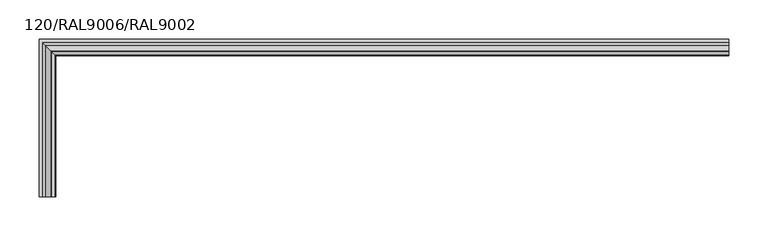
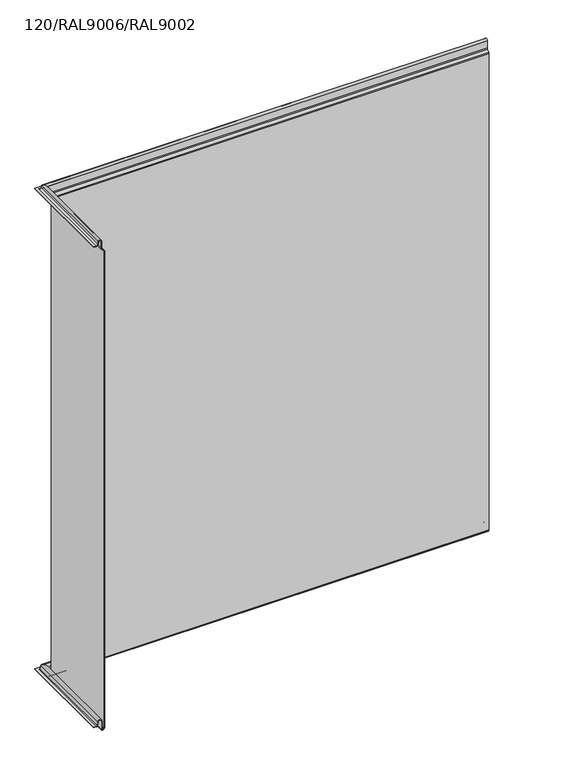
"""IFC4 building model written with IfcOpenShell, lengths in millimetres: plate geometry, TR_C_H_FHL_Corner_Tr_B : 120/RAL9006/RAL9002."""

from ifc_helpers import new_model, si_unit, frame, origin, place, context, project, spatial, polyline, circle_curve, ellipse_curve, source, transform, mapped, element, save
from ifc_brep_helpers import plane_surface, cylinder_surface, revolved_surface, advanced_brep


def plate_120_ral9006_ral9002_22d1957b(model_context):
    return source(origin(), model_context, "Body", "AdvancedBrep", [
        advanced_brep(
        [(490.0, -120.0, 989.8218254), (490.0, -120.0, 0.4813708), (490.0, -119.1945436, -1.4631728), (490.0, -117.3288582, -3.3288582), (490.0, -114.0, -1.95), (490.0, -114.0, 15.65), (490.0, -107.1524133, 16.2490862), (490.0, -105.8160279, 8.6700685), (490.0, -103.9448932, 7.1), (490.0, -99.0, 7.1), (490.0, -99.0, 7.9), (490.0, -103.9448932, 7.9), (490.0, -105.0281817, 8.808987), (490.0, -106.364567, 16.3880048), (490.0, -114.8, 15.65), (490.0, -114.8, -1.95), (490.0, -116.7631728, -2.7631728), (490.0, -118.6288582, -0.8974874), (490.0, -119.2, 0.4813708), (490.0, -119.2, 989.8218254), (490.0, -118.5556349, 991.3774603), (490.0, -114.1665476, 995.7665476), (490.0, -113.2, 998.1), (490.0, -113.2, 1012.85), (490.0, -108.337221, 1013.275438), (490.0, -107.5939081, 1009.0599008), (490.0, -103.1130328, 1005.3), (490.0, -99.0, 1005.3), (490.0, -99.0, 1006.1), (490.0, -103.1130328, 1006.1), (490.0, -106.8060618, 1009.1988193), (490.0, -107.5493748, 1013.4143566), (490.0, -114.0, 1012.85), (490.0, -114.0, 998.1), (490.0, -114.732233, 996.332233), (490.0, -119.1213203, 991.9431458), (-370.0, -120.0, 989.8218254), (-370.0, -120.0, 0.4813708), (-370.8, -119.2, 0.4813708), (-370.8, -119.2, 989.8218254), (-370.0, -300.0, 989.8218254), (-370.8786797, -300.0, 991.9431458), (-375.267767, -300.0, 996.332233), (-376.0, -300.0, 998.1), (-376.0, -300.0, 1012.85), (-382.4506252, -300.0, 1013.4143566), (-383.1939382, -300.0, 1009.1988193), (-386.8869672, -300.0, 1006.1), (-391.0, -300.0, 1006.1), (-391.0, -300.0, 1005.3), (-386.8869672, -300.0, 1005.3), (-382.4060919, -300.0, 1009.0599008), (-381.662779, -300.0, 1013.275438), (-376.8, -300.0, 1012.85), (-376.8, -300.0, 998.1), (-375.8334524, -300.0, 995.7665476), (-371.4443651, -300.0, 991.3774603), (-370.8, -300.0, 989.8218254), (-370.8, -300.0, 0.4813708), (-371.3711418, -300.0, -0.8974874), (-373.2368272, -300.0, -2.7631728), (-375.2, -300.0, -1.95), (-375.2, -300.0, 15.65), (-383.635433, -300.0, 16.3880048), (-384.9718183, -300.0, 8.808987), (-386.0551068, -300.0, 7.9), (-391.0, -300.0, 7.9), (-391.0, -300.0, 7.1), (-386.0551068, -300.0, 7.1), (-384.1839721, -300.0, 8.6700685), (-382.8475867, -300.0, 16.2490862), (-376.0, -300.0, 15.65), (-376.0, -300.0, -1.95), (-372.6711418, -300.0, -3.3288582), (-370.8054564, -300.0, -1.4631728), (-370.0, -300.0, 0.4813708), (-370.8054564, -119.1945436, -1.4631728), (-372.6711418, -117.3288582, -3.3288582), (-376.0, -114.0, -1.95), (-376.0, -114.0, 15.65), (-382.8475867, -107.1524133, 16.2490862), (-384.1839721, -105.8160279, 8.6700685), (-386.0551068, -103.9448932, 7.1), (-391.0, -99.0, 7.1), (-391.0, -99.0, 7.9), (-386.0551068, -103.9448932, 7.9), (-384.9718183, -105.0281817, 8.808987), (-383.635433, -106.364567, 16.3880048), (-375.2, -114.8, 15.65), (-375.2, -114.8, -1.95), (-373.2368272, -116.7631728, -2.7631728), (-371.3711418, -118.6288582, -0.8974874), (-371.4443651, -118.5556349, 991.3774603), (-375.8334524, -114.1665476, 995.7665476), (-376.8, -113.2, 998.1), (-376.8, -113.2, 1012.85), (-381.662779, -108.337221, 1013.275438), (-382.4060919, -107.5939081, 1009.0599008), (-386.8869672, -103.1130328, 1005.3), (-391.0, -99.0, 1005.3), (-391.0, -99.0, 1006.1), (-386.8869672, -103.1130328, 1006.1), (-383.1939382, -106.8060618, 1009.1988193), (-382.4506252, -107.5493748, 1013.4143566), (-376.0, -114.0, 1012.85), (-376.0, -114.0, 998.1), (-375.267767, -114.732233, 996.332233), (-370.8786797, -119.1213203, 991.9431458)],
        [
            (0, 1),
            (1, 2, circle_curve(frame((490.0, -117.25, 0.4813708), z_axis=(1.0, 0.0, 0.0), x_axis=(0.0, -1.0, 0.0)), 2.75)),
            (2, 3),
            (3, 4, circle_curve(frame((490.0, -115.95, -1.95), z_axis=(1.0, 0.0, 0.0), x_axis=(0.0, -1.0, 0.0)), 1.95)),
            (4, 5),
            (5, 6, circle_curve(frame((490.0, -110.55, 15.65), z_axis=(-1.0, 0.0, 0.0), x_axis=(0.0, -1.0, 0.0)), 3.45)),
            (6, 7),
            (7, 8, circle_curve(frame((490.0, -103.9448932, 9.0), z_axis=(1.0, 0.0, 0.0), x_axis=(0.0, -1.0, 0.0)), 1.9)),
            (8, 9),
            (9, 10),
            (10, 11),
            (11, 12, circle_curve(frame((490.0, -103.9448932, 9.0), z_axis=(-1.0, 0.0, 0.0), x_axis=(0.0, -1.0, 0.0)), 1.1)),
            (12, 13),
            (13, 14, circle_curve(frame((490.0, -110.55, 15.65), z_axis=(1.0, 0.0, 0.0), x_axis=(0.0, -1.0, 0.0)), 4.25)),
            (14, 15),
            (15, 16, circle_curve(frame((490.0, -115.95, -1.95), z_axis=(-1.0, 0.0, 0.0), x_axis=(0.0, -1.0, 0.0)), 1.15)),
            (16, 17),
            (17, 18, circle_curve(frame((490.0, -117.25, 0.4813708), z_axis=(-1.0, 0.0, 0.0), x_axis=(0.0, -1.0, 0.0)), 1.95)),
            (18, 19),
            (19, 20, circle_curve(frame((490.0, -117.0, 989.8218254), z_axis=(-1.0, 0.0, 0.0), x_axis=(0.0, -1.0, 0.0)), 2.2)),
            (20, 21),
            (21, 22, circle_curve(frame((490.0, -116.5, 998.1), z_axis=(1.0, 0.0, 0.0), x_axis=(0.0, -1.0, 0.0)), 3.3)),
            (22, 23),
            (23, 24, circle_curve(frame((490.0, -110.75, 1012.85), z_axis=(-1.0, 0.0, 0.0), x_axis=(0.0, -1.0, 0.0)), 2.45)),
            (24, 25),
            (25, 26, circle_curve(frame((490.0, -103.1130328, 1009.85), z_axis=(1.0, 0.0, 0.0), x_axis=(0.0, -1.0, 0.0)), 4.55)),
            (26, 27),
            (27, 28),
            (28, 29),
            (29, 30, circle_curve(frame((490.0, -103.1130328, 1009.85), z_axis=(-1.0, 0.0, 0.0), x_axis=(0.0, -1.0, 0.0)), 3.75)),
            (30, 31),
            (31, 32, circle_curve(frame((490.0, -110.75, 1012.85), z_axis=(1.0, 0.0, 0.0), x_axis=(0.0, -1.0, 0.0)), 3.25)),
            (32, 33),
            (33, 34, circle_curve(frame((490.0, -116.5, 998.1), z_axis=(-1.0, 0.0, 0.0), x_axis=(0.0, -1.0, 0.0)), 2.5)),
            (34, 35),
            (35, 0, circle_curve(frame((490.0, -117.0, 989.8218254), z_axis=(1.0, 0.0, 0.0), x_axis=(0.0, -1.0, 0.0)), 3.0)),
            (0, 36),
            (36, 37),
            (37, 1),
            (18, 38),
            (38, 39),
            (39, 19),
            (40, 41, circle_curve(frame((-373.0, -300.0, 989.8218254), z_axis=(0.0, -1.0, 0.0), x_axis=(1.0, 0.0, 0.0)), 3.0)),
            (41, 42),
            (42, 43, circle_curve(frame((-373.5, -300.0, 998.1), z_axis=(0.0, 1.0, 0.0), x_axis=(1.0, 0.0, 0.0)), 2.5)),
            (43, 44),
            (44, 45, circle_curve(frame((-379.25, -300.0, 1012.85), z_axis=(0.0, -1.0, 0.0), x_axis=(1.0, 0.0, 0.0)), 3.25)),
            (45, 46),
            (46, 47, circle_curve(frame((-386.8869672, -300.0, 1009.85), z_axis=(0.0, 1.0, 0.0), x_axis=(1.0, 0.0, 0.0)), 3.75)),
            (47, 48),
            (48, 49),
            (49, 50),
            (50, 51, circle_curve(frame((-386.8869672, -300.0, 1009.85), z_axis=(0.0, -1.0, 0.0), x_axis=(1.0, 0.0, 0.0)), 4.55)),
            (51, 52),
            (52, 53, circle_curve(frame((-379.25, -300.0, 1012.85), z_axis=(0.0, 1.0, 0.0), x_axis=(1.0, 0.0, 0.0)), 2.45)),
            (53, 54),
            (54, 55, circle_curve(frame((-373.5, -300.0, 998.1), z_axis=(0.0, -1.0, 0.0), x_axis=(1.0, 0.0, 0.0)), 3.3)),
            (55, 56),
            (56, 57, circle_curve(frame((-373.0, -300.0, 989.8218254), z_axis=(0.0, 1.0, 0.0), x_axis=(1.0, 0.0, 0.0)), 2.2)),
            (57, 58),
            (58, 59, circle_curve(frame((-372.75, -300.0, 0.4813708), z_axis=(0.0, 1.0, 0.0), x_axis=(1.0, 0.0, 0.0)), 1.95)),
            (59, 60),
            (60, 61, circle_curve(frame((-374.05, -300.0, -1.95), z_axis=(0.0, 1.0, 0.0), x_axis=(1.0, 0.0, 0.0)), 1.15)),
            (61, 62),
            (62, 63, circle_curve(frame((-379.45, -300.0, 15.65), z_axis=(0.0, -1.0, 0.0), x_axis=(1.0, 0.0, 0.0)), 4.25)),
            (63, 64),
            (64, 65, circle_curve(frame((-386.0551068, -300.0, 9.0), z_axis=(0.0, 1.0, 0.0), x_axis=(1.0, 0.0, 0.0)), 1.1)),
            (65, 66),
            (66, 67),
            (67, 68),
            (68, 69, circle_curve(frame((-386.0551068, -300.0, 9.0), z_axis=(0.0, -1.0, 0.0), x_axis=(1.0, 0.0, 0.0)), 1.9)),
            (69, 70),
            (70, 71, circle_curve(frame((-379.45, -300.0, 15.65), z_axis=(0.0, 1.0, 0.0), x_axis=(1.0, 0.0, 0.0)), 3.45)),
            (71, 72),
            (72, 73, circle_curve(frame((-374.05, -300.0, -1.95), z_axis=(0.0, -1.0, 0.0), x_axis=(1.0, 0.0, 0.0)), 1.95)),
            (73, 74),
            (74, 75, circle_curve(frame((-372.75, -300.0, 0.4813708), z_axis=(0.0, -1.0, 0.0), x_axis=(1.0, 0.0, 0.0)), 2.75)),
            (75, 40),
            (36, 40),
            (75, 37),
            (38, 58),
            (57, 39),
            (37, 76, ellipse_curve(frame((-372.75, -117.25, 0.4813708), z_axis=(0.7071067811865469, 0.7071067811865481, 0.0), x_axis=(0.7071067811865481, -0.7071067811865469, 0.0)), 3.8890873, 2.75)),
            (76, 2),
            (76, 77),
            (77, 3),
            (77, 78, ellipse_curve(frame((-374.05, -115.95, -1.95), z_axis=(0.7071067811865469, 0.7071067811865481, 0.0), x_axis=(0.7071067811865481, -0.7071067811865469, 0.0)), 2.7577164, 1.95)),
            (78, 4),
            (78, 79),
            (79, 5),
            (79, 80, ellipse_curve(frame((-379.45, -110.55, 15.65), z_axis=(-0.7071067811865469, -0.7071067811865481, 0.0), x_axis=(-0.7071067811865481, 0.7071067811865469, 0.0)), 4.8790368, 3.45)),
            (80, 6),
            (80, 81),
            (81, 7),
            (81, 82, ellipse_curve(frame((-386.0551068, -103.9448932, 9.0), z_axis=(0.7071067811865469, 0.7071067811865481, 0.0), x_axis=(0.7071067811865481, -0.7071067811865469, 0.0)), 2.6870058, 1.9)),
            (82, 8),
            (82, 68),
            (67, 83),
            (83, 9),
            (83, 84),
            (84, 10),
            (84, 66),
            (65, 85),
            (85, 11),
            (85, 86, ellipse_curve(frame((-386.0551068, -103.9448932, 9.0), z_axis=(-0.7071067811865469, -0.7071067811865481, 0.0), x_axis=(-0.7071067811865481, 0.7071067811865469, 0.0)), 1.5556349, 1.1)),
            (86, 12),
            (86, 87),
            (87, 13),
            (87, 88, ellipse_curve(frame((-379.45, -110.55, 15.65), z_axis=(0.7071067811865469, 0.7071067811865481, 0.0), x_axis=(0.7071067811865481, -0.7071067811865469, 0.0)), 6.0104076, 4.25)),
            (88, 14),
            (88, 89),
            (89, 15),
            (89, 90, ellipse_curve(frame((-374.05, -115.95, -1.95), z_axis=(-0.7071067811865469, -0.7071067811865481, 0.0), x_axis=(-0.7071067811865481, 0.7071067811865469, 0.0)), 1.6263456, 1.15)),
            (90, 16),
            (90, 91),
            (91, 17),
            (91, 38, ellipse_curve(frame((-372.75, -117.25, 0.4813708), z_axis=(-0.7071067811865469, -0.7071067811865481, 0.0), x_axis=(-0.7071067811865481, 0.7071067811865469, 0.0)), 2.7577164, 1.95)),
            (39, 92, ellipse_curve(frame((-373.0, -117.0, 989.8218254), z_axis=(-0.7071067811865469, -0.7071067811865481, 0.0), x_axis=(-0.7071067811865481, 0.7071067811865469, 0.0)), 3.1112698, 2.2)),
            (92, 20),
            (92, 93),
            (93, 21),
            (93, 94, ellipse_curve(frame((-373.5, -116.5, 998.1), z_axis=(0.7071067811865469, 0.7071067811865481, 0.0), x_axis=(0.7071067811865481, -0.7071067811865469, 0.0)), 4.6669048, 3.3)),
            (94, 22),
            (94, 95),
            (95, 23),
            (95, 96, ellipse_curve(frame((-379.25, -110.75, 1012.85), z_axis=(-0.7071067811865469, -0.7071067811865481, 0.0), x_axis=(-0.7071067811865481, 0.7071067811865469, 0.0)), 3.4648232, 2.45)),
            (96, 24),
            (96, 97),
            (97, 25),
            (97, 98, ellipse_curve(frame((-386.8869672, -103.1130328, 1009.85), z_axis=(0.7071067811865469, 0.7071067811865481, 0.0), x_axis=(0.7071067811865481, -0.7071067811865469, 0.0)), 6.4346717, 4.55)),
            (98, 26),
            (98, 50),
            (49, 99),
            (99, 27),
            (99, 100),
            (100, 28),
            (100, 48),
            (47, 101),
            (101, 29),
            (101, 102, ellipse_curve(frame((-386.8869672, -103.1130328, 1009.85), z_axis=(-0.7071067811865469, -0.7071067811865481, 0.0), x_axis=(-0.7071067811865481, 0.7071067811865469, 0.0)), 5.3033009, 3.75)),
            (102, 30),
            (102, 103),
            (103, 31),
            (103, 104, ellipse_curve(frame((-379.25, -110.75, 1012.85), z_axis=(0.7071067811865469, 0.7071067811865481, 0.0), x_axis=(0.7071067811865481, -0.7071067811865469, 0.0)), 4.5961941, 3.25)),
            (104, 32),
            (104, 105),
            (105, 33),
            (105, 106, ellipse_curve(frame((-373.5, -116.5, 998.1), z_axis=(-0.7071067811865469, -0.7071067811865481, 0.0), x_axis=(-0.7071067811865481, 0.7071067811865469, 0.0)), 3.5355339, 2.5)),
            (106, 34),
            (106, 107),
            (107, 35),
            (107, 36, ellipse_curve(frame((-373.0, -117.0, 989.8218254), z_axis=(0.7071067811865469, 0.7071067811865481, 0.0), x_axis=(0.7071067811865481, -0.7071067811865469, 0.0)), 4.2426407, 3.0)),
            (74, 76),
            (73, 77),
            (72, 78),
            (71, 79),
            (70, 80),
            (69, 81),
            (64, 86),
            (63, 87),
            (62, 88),
            (61, 89),
            (60, 90),
            (59, 91),
            (56, 92),
            (55, 93),
            (54, 94),
            (53, 95),
            (52, 96),
            (51, 97),
            (46, 102),
            (45, 103),
            (44, 104),
            (43, 105),
            (42, 106),
            (41, 107),
        ],
        [
            plane_surface(frame((490.0, 0.0, 0.0), z_axis=(1.0, 0.0, 0.0), x_axis=(0.0, 0.0, 1.0))),
            plane_surface(frame((490.0, -120.0, 989.8218254), z_axis=(0.0, -1.0, 0.0), x_axis=(-1.0, 0.0, 0.0))),
            plane_surface(frame((490.0, -119.2, 0.4813708), z_axis=(0.0, 1.0, 0.0), x_axis=(-1.0, 0.0, 0.0))),
            plane_surface(frame((-490.0, -300.0, 0.0), z_axis=(0.0, -1.0, 0.0), x_axis=(0.0, 0.0, 1.0))),
            plane_surface(frame((-370.0, -120.0, 989.8218254), z_axis=(1.0, 0.0, 0.0), x_axis=(0.0, -1.0, 0.0))),
            plane_surface(frame((-370.8, -119.2, 0.4813708), z_axis=(-1.0, 0.0, 0.0), x_axis=(0.0, -1.0, 0.0))),
            cylinder_surface(frame((490.0, -117.25, 0.4813708), z_axis=(1.0, 0.0, 0.0), x_axis=(0.0, -1.0, 0.0)), 2.75),
            plane_surface(frame((490.0, -119.1945436, -1.4631728), z_axis=(0.0, -0.7071067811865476, -0.7071067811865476), x_axis=(-1.0, 0.0, 0.0))),
            cylinder_surface(frame((490.0, -115.95, -1.95), z_axis=(1.0, 0.0, 0.0), x_axis=(0.0, -1.0, 0.0)), 1.95),
            plane_surface(frame((490.0, -114.0, -1.95), z_axis=(0.0, 1.0, 0.0), x_axis=(-1.0, 0.0, 0.0))),
            revolved_surface(polyline([(-382.90000000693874, -114.0, 15.65), (490.0, -114.0, 15.65)]), (490.0, -110.55, 15.65), (-1.0, 0.0, 0.0)),
            plane_surface(frame((490.0, -107.1524133, 16.2490862), z_axis=(0.0, -0.9848077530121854, -0.17364817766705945), x_axis=(-1.0, 0.0, 0.0))),
            cylinder_surface(frame((490.0, -103.9448932, 9.0), z_axis=(1.0, 0.0, 0.0), x_axis=(0.0, -1.0, 0.0)), 1.9),
            plane_surface(frame((490.0, -103.9448932, 7.1), z_axis=(0.0, 0.0, -1.0), x_axis=(-1.0, 0.0, 0.0))),
            plane_surface(frame((490.0, -99.0, 7.1), z_axis=(0.0, 1.0, 0.0), x_axis=(-1.0, 0.0, 0.0))),
            plane_surface(frame((490.0, -99.0, 7.9), z_axis=(0.0, 0.0, 1.0), x_axis=(-1.0, 0.0, 0.0))),
            revolved_surface(polyline([(-387.1551067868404, -105.04489319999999, 9.0), (490.0, -105.04489319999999, 9.0)]), (490.0, -103.9448932, 9.0), (-1.0, 0.0, 0.0)),
            plane_surface(frame((490.0, -105.0281817, 8.808987), z_axis=(0.0, 0.9848077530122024, 0.17364817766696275), x_axis=(-1.0, 0.0, 0.0))),
            cylinder_surface(frame((490.0, -110.55, 15.65), z_axis=(1.0, 0.0, 0.0), x_axis=(0.0, -1.0, 0.0)), 4.25),
            plane_surface(frame((490.0, -114.8, 15.65), z_axis=(0.0, -1.0, 0.0), x_axis=(-1.0, 0.0, 0.0))),
            revolved_surface(polyline([(-375.2000000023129, -117.10000000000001, -1.95), (490.0, -117.10000000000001, -1.95)]), (490.0, -115.95, -1.95), (-1.0, 0.0, 0.0)),
            plane_surface(frame((490.0, -116.7631728, -2.7631728), z_axis=(0.0, 0.7071067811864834, 0.7071067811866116), x_axis=(-1.0, 0.0, 0.0))),
            revolved_surface(polyline([(-374.6999999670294, -119.2, 0.4813708), (490.0, -119.2, 0.4813708)]), (490.0, -117.25, 0.4813708), (-1.0, 0.0, 0.0)),
            revolved_surface(polyline([(-375.19999997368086, -119.2, 989.8218254), (490.0, -119.2, 989.8218254)]), (490.0, -117.0, 989.8218254), (-1.0, 0.0, 0.0)),
            plane_surface(frame((490.0, -118.5556349, 991.3774603), z_axis=(0.0, 0.7071067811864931, -0.7071067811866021), x_axis=(-1.0, 0.0, 0.0))),
            cylinder_surface(frame((490.0, -116.5, 998.1), z_axis=(1.0, 0.0, 0.0), x_axis=(0.0, -1.0, 0.0)), 3.3),
            plane_surface(frame((490.0, -113.2, 998.1), z_axis=(0.0, 1.0, 0.0), x_axis=(-1.0, 0.0, 0.0))),
            revolved_surface(polyline([(-381.69999998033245, -113.2, 1012.85), (490.0, -113.2, 1012.85)]), (490.0, -110.75, 1012.85), (-1.0, 0.0, 0.0)),
            plane_surface(frame((490.0, -108.337221, 1013.275438), z_axis=(0.0, -0.9848077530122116, -0.17364817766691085), x_axis=(-1.0, 0.0, 0.0))),
            cylinder_surface(frame((490.0, -103.1130328, 1009.85), z_axis=(1.0, 0.0, 0.0), x_axis=(0.0, -1.0, 0.0)), 4.55),
            plane_surface(frame((490.0, -103.1130328, 1005.3), z_axis=(0.0, 0.0, -1.0), x_axis=(-1.0, 0.0, 0.0))),
            plane_surface(frame((490.0, -99.0, 1005.3), z_axis=(0.0, 1.0, 0.0), x_axis=(-1.0, 0.0, 0.0))),
            plane_surface(frame((490.0, -99.0, 1006.1), z_axis=(0.0, 0.0, 1.0), x_axis=(-1.0, 0.0, 0.0))),
            revolved_surface(polyline([(-390.63696722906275, -106.8630328, 1009.85), (490.0, -106.8630328, 1009.85)]), (490.0, -103.1130328, 1009.85), (-1.0, 0.0, 0.0)),
            plane_surface(frame((490.0, -106.8060618, 1009.1988193), z_axis=(0.0, 0.984807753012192, 0.17364817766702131), x_axis=(-1.0, 0.0, 0.0))),
            cylinder_surface(frame((490.0, -110.75, 1012.85), z_axis=(1.0, 0.0, 0.0), x_axis=(0.0, -1.0, 0.0)), 3.25),
            plane_surface(frame((490.0, -114.0, 1012.85), z_axis=(0.0, -1.0, 0.0), x_axis=(-1.0, 0.0, 0.0))),
            revolved_surface(polyline([(-376.0, -119.0, 998.1), (490.0, -119.0, 998.1)]), (490.0, -116.5, 998.1), (-1.0, 0.0, 0.0)),
            plane_surface(frame((490.0, -114.732233, 996.332233), z_axis=(0.0, -0.7071067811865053, 0.7071067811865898), x_axis=(-1.0, 0.0, 0.0))),
            cylinder_surface(frame((490.0, -117.0, 989.8218254), z_axis=(1.0, 0.0, 0.0), x_axis=(0.0, -1.0, 0.0)), 3.0),
            cylinder_surface(frame((-372.75, 0.0, 0.4813708), z_axis=(0.0, 1.0, 0.0), x_axis=(1.0, 0.0, 0.0)), 2.75),
            plane_surface(frame((-370.8054564, -119.1945436, -1.4631728), z_axis=(0.7071067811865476, 0.0, -0.7071067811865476), x_axis=(0.0, -1.0, 0.0))),
            cylinder_surface(frame((-374.05, 0.0, -1.95), z_axis=(0.0, 1.0, 0.0), x_axis=(1.0, 0.0, 0.0)), 1.95),
            plane_surface(frame((-376.0, -114.0, -1.95), z_axis=(-1.0, 0.0, 0.0), x_axis=(0.0, -1.0, 0.0))),
            revolved_surface(polyline([(-376.0, -300.0, 15.65), (-376.0, -107.09999999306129, 15.65)]), (-379.45, 0.0, 15.65), (0.0, -1.0, 0.0)),
            plane_surface(frame((-382.8475867, -107.1524133, 16.2490862), z_axis=(0.9848077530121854, 0.0, -0.17364817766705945), x_axis=(0.0, -1.0, 0.0))),
            cylinder_surface(frame((-386.0551068, 0.0, 9.0), z_axis=(0.0, 1.0, 0.0), x_axis=(1.0, 0.0, 0.0)), 1.9),
            plane_surface(frame((-391.0, -99.0, 7.1), z_axis=(-1.0, 0.0, 0.0), x_axis=(0.0, -1.0, 0.0))),
            revolved_surface(polyline([(-384.95510679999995, -300.0, 9.0), (-384.95510679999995, -102.84489321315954, 9.0)]), (-386.0551068, 0.0, 9.0), (0.0, -1.0, 0.0)),
            plane_surface(frame((-384.9718183, -105.0281817, 8.808987), z_axis=(-0.9848077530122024, 0.0, 0.17364817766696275), x_axis=(0.0, -1.0, 0.0))),
            cylinder_surface(frame((-379.45, 0.0, 15.65), z_axis=(0.0, 1.0, 0.0), x_axis=(1.0, 0.0, 0.0)), 4.25),
            plane_surface(frame((-375.2, -114.8, 15.65), z_axis=(1.0, 0.0, 0.0), x_axis=(0.0, -1.0, 0.0))),
            revolved_surface(polyline([(-372.90000000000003, -300.0, -1.95), (-372.90000000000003, -114.7999999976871, -1.95)]), (-374.05, 0.0, -1.95), (0.0, -1.0, 0.0)),
            plane_surface(frame((-373.2368272, -116.7631728, -2.7631728), z_axis=(-0.7071067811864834, 0.0, 0.7071067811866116), x_axis=(0.0, -1.0, 0.0))),
            revolved_surface(polyline([(-370.8, -300.0, 0.4813708), (-370.8, -115.30000003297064, 0.4813708)]), (-372.75, 0.0, 0.4813708), (0.0, -1.0, 0.0)),
            revolved_surface(polyline([(-370.8, -300.0, 989.8218254), (-370.8, -114.80000002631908, 989.8218254)]), (-373.0, 0.0, 989.8218254), (0.0, -1.0, 0.0)),
            plane_surface(frame((-371.4443651, -118.5556349, 991.3774603), z_axis=(-0.7071067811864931, 0.0, -0.7071067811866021), x_axis=(0.0, -1.0, 0.0))),
            cylinder_surface(frame((-373.5, 0.0, 998.1), z_axis=(0.0, 1.0, 0.0), x_axis=(1.0, 0.0, 0.0)), 3.3),
            plane_surface(frame((-376.8, -113.2, 998.1), z_axis=(-1.0, 0.0, 0.0), x_axis=(0.0, -1.0, 0.0))),
            revolved_surface(polyline([(-376.8, -300.0, 1012.85), (-376.8, -108.30000001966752, 1012.85)]), (-379.25, 0.0, 1012.85), (0.0, -1.0, 0.0)),
            plane_surface(frame((-381.662779, -108.337221, 1013.275438), z_axis=(0.9848077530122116, 0.0, -0.17364817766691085), x_axis=(0.0, -1.0, 0.0))),
            cylinder_surface(frame((-386.8869672, 0.0, 1009.85), z_axis=(0.0, 1.0, 0.0), x_axis=(1.0, 0.0, 0.0)), 4.55),
            plane_surface(frame((-391.0, -99.0, 1005.3), z_axis=(-1.0, 0.0, 0.0), x_axis=(0.0, -1.0, 0.0))),
            revolved_surface(polyline([(-383.1369672, -300.0, 1009.85), (-383.1369672, -99.36303277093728, 1009.85)]), (-386.8869672, 0.0, 1009.85), (0.0, -1.0, 0.0)),
            plane_surface(frame((-383.1939382, -106.8060618, 1009.1988193), z_axis=(-0.984807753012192, 0.0, 0.17364817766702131), x_axis=(0.0, -1.0, 0.0))),
            cylinder_surface(frame((-379.25, 0.0, 1012.85), z_axis=(0.0, 1.0, 0.0), x_axis=(1.0, 0.0, 0.0)), 3.25),
            plane_surface(frame((-376.0, -114.0, 1012.85), z_axis=(1.0, 0.0, 0.0), x_axis=(0.0, -1.0, 0.0))),
            revolved_surface(polyline([(-371.0, -300.0, 998.1), (-371.0, -114.0, 998.1)]), (-373.5, 0.0, 998.1), (0.0, -1.0, 0.0)),
            plane_surface(frame((-375.267767, -114.732233, 996.332233), z_axis=(0.7071067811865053, 0.0, 0.7071067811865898), x_axis=(0.0, -1.0, 0.0))),
            cylinder_surface(frame((-373.0, 0.0, 989.8218254), z_axis=(0.0, 1.0, 0.0), x_axis=(1.0, 0.0, 0.0)), 3.0),
        ],
        [
            (0, [[1, 2, 3, 4, 5, 6, 7, 8, 9, 10, 11, 12, 13, 14, 15, 16, 17, 18, 19, 20, 21, 22, 23, 24, 25, 26, 27, 28, 29, 30, 31, 32, 33, 34, 35, 36]]),
            (1, [[-1, 37, 38, 39]]),
            (2, [[-19, 40, 41, 42]]),
            (3, [[43, 44, 45, 46, 47, 48, 49, 50, 51, 52, 53, 54, 55, 56, 57, 58, 59, 60, 61, 62, 63, 64, 65, 66, 67, 68, 69, 70, 71, 72, 73, 74, 75, 76, 77, 78]]),
            (4, [[-38, 79, -78, 80]]),
            (5, [[-41, 81, -60, 82]]),
            (6, [[-2, -39, 83, 84]]),
            (7, [[-3, -84, 85, 86]]),
            (8, [[-4, -86, 87, 88]]),
            (9, [[-5, -88, 89, 90]]),
            (10, [[-6, -90, 91, 92]]),
            (11, [[-7, -92, 93, 94]]),
            (12, [[-8, -94, 95, 96]]),
            (13, [[-9, -96, 97, -70, 98, 99]]),
            (14, [[-10, -99, 100, 101]]),
            (15, [[-11, -101, 102, -68, 103, 104]]),
            (16, [[-12, -104, 105, 106]]),
            (17, [[-13, -106, 107, 108]]),
            (18, [[-14, -108, 109, 110]]),
            (19, [[-15, -110, 111, 112]]),
            (20, [[-16, -112, 113, 114]]),
            (21, [[-17, -114, 115, 116]]),
            (22, [[-18, -116, 117, -40]]),
            (23, [[-20, -42, 118, 119]]),
            (24, [[-21, -119, 120, 121]]),
            (25, [[-22, -121, 122, 123]]),
            (26, [[-23, -123, 124, 125]]),
            (27, [[-24, -125, 126, 127]]),
            (28, [[-25, -127, 128, 129]]),
            (29, [[-26, -129, 130, 131]]),
            (30, [[-27, -131, 132, -52, 133, 134]]),
            (31, [[-28, -134, 135, 136]]),
            (32, [[-29, -136, 137, -50, 138, 139]]),
            (33, [[-30, -139, 140, 141]]),
            (34, [[-31, -141, 142, 143]]),
            (35, [[-32, -143, 144, 145]]),
            (36, [[-33, -145, 146, 147]]),
            (37, [[-34, -147, 148, 149]]),
            (38, [[-35, -149, 150, 151]]),
            (39, [[-36, -151, 152, -37]]),
            (40, [[-83, -80, -77, 153]]),
            (41, [[-85, -153, -76, 154]]),
            (42, [[-87, -154, -75, 155]]),
            (43, [[-89, -155, -74, 156]]),
            (44, [[-91, -156, -73, 157]]),
            (45, [[-93, -157, -72, 158]]),
            (46, [[-95, -158, -71, -97]]),
            (47, [[-100, -98, -69, -102]]),
            (48, [[-105, -103, -67, 159]]),
            (49, [[-107, -159, -66, 160]]),
            (50, [[-109, -160, -65, 161]]),
            (51, [[-111, -161, -64, 162]]),
            (52, [[-113, -162, -63, 163]]),
            (53, [[-115, -163, -62, 164]]),
            (54, [[-117, -164, -61, -81]]),
            (55, [[-118, -82, -59, 165]]),
            (56, [[-120, -165, -58, 166]]),
            (57, [[-122, -166, -57, 167]]),
            (58, [[-124, -167, -56, 168]]),
            (59, [[-126, -168, -55, 169]]),
            (60, [[-128, -169, -54, 170]]),
            (61, [[-130, -170, -53, -132]]),
            (62, [[-135, -133, -51, -137]]),
            (63, [[-140, -138, -49, 171]]),
            (64, [[-142, -171, -48, 172]]),
            (65, [[-144, -172, -47, 173]]),
            (66, [[-146, -173, -46, 174]]),
            (67, [[-148, -174, -45, 175]]),
            (68, [[-150, -175, -44, 176]]),
            (69, [[-152, -176, -43, -79]]),
        ],
    ),
    ])


if __name__ == "__main__":
    model = new_model("IFC4")
    model_context = context("Model", 3, world=origin())
    ifc_project = project(units=[si_unit("LENGTHUNIT", "METRE", prefix="MILLI")], contexts=[model_context])
    site = spatial("IfcSite", under=ifc_project)
    building = spatial("IfcBuilding", under=site)
    placement = place(None, origin())
    plate_120_ral9006_ral9002_shape = plate_120_ral9006_ral9002_22d1957b(model_context)
    element("IfcPlate", 1, ObjectType="TR_C_H_FHL_Corner_Tr_B : 120/RAL9006/RAL9002", at=placement, inside=building, context=model_context, shape_type="MappedRepresentation", body=[
        mapped(plate_120_ral9006_ral9002_shape, transform((0.0, 0.0, 0.0), x_axis=(1.0, 0.0, 0.0), y_axis=(0.0, 1.0, 0.0), z_axis=(0.0, 0.0, 1.0))),
    ])
    save(model, "model.ifc")
